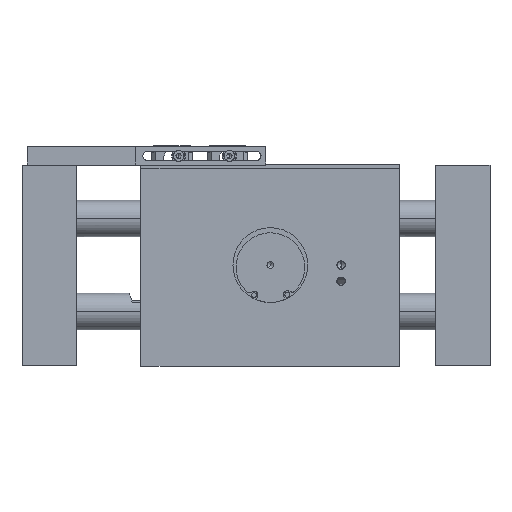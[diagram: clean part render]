
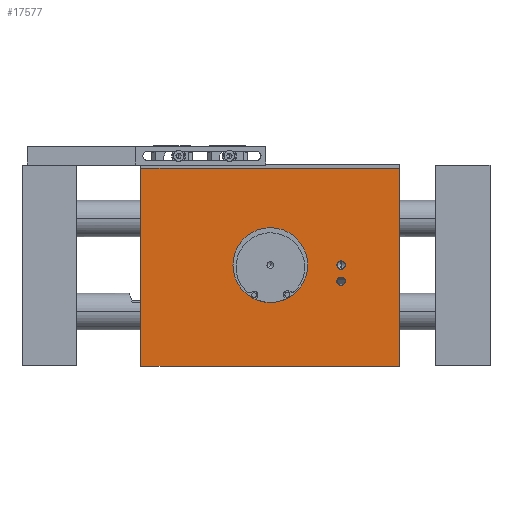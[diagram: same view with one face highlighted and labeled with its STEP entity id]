
A CAD part, front view. The second image highlights one B-rep face of the part: STEP entity #17577.
In plain terms, the highlighted planar face has unit normal (0, -1, 0).
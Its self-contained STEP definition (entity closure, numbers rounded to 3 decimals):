
#2375 = CARTESIAN_POINT ( 'NONE',  ( -64., -39., -50. ) ) ;
#2405 = CARTESIAN_POINT ( 'NONE',  ( 64., -39., 48. ) ) ;
#2932 = CARTESIAN_POINT ( 'NONE',  ( 64., -39., -50. ) ) ;
#6922 = VERTEX_POINT ( 'NONE', #21247 ) ;
#7338 = VERTEX_POINT ( 'NONE', #2375 ) ;
#7405 = VERTEX_POINT ( 'NONE', #2405 ) ;
#8127 = VERTEX_POINT ( 'NONE', #2932 ) ;
#11656 = AXIS2_PLACEMENT_3D ( 'NONE', #77890, #77893, #77895 ) ;
#11676 = AXIS2_PLACEMENT_3D ( 'NONE', #78000, #78043, #78045 ) ;
#11885 = AXIS2_PLACEMENT_3D ( 'NONE', #81394, #81395, #81396 ) ;
#17577 = ADVANCED_FACE ( 'NONE', ( #21749, #21748, #21754, #21756 ), #22168, .T. ) ;
#21247 = CARTESIAN_POINT ( 'NONE',  ( -64., -39., 48. ) ) ;
#21748 = FACE_BOUND ( 'NONE', #54851, .T. ) ;
#21749 = FACE_OUTER_BOUND ( 'NONE', #54784, .T. ) ;
#21754 = FACE_BOUND ( 'NONE', #54867, .T. ) ;
#21756 = FACE_BOUND ( 'NONE', #48877, .T. ) ;
#22168 = PLANE ( 'NONE',  #34755 ) ;
#22173 = CARTESIAN_POINT ( 'NONE',  ( -64., -39., -50. ) ) ;
#22175 = DIRECTION ( 'NONE',  ( 0., -1., 0. ) ) ;
#22176 = DIRECTION ( 'NONE',  ( 0., 0., -1. ) ) ;
#34755 = AXIS2_PLACEMENT_3D ( 'NONE', #22173, #22175, #22176 ) ;
#35288 = EDGE_CURVE ( 'NONE', #7338, #8127, #47389, .T. ) ;
#35334 = EDGE_CURVE ( 'NONE', #8127, #7405, #51296, .T. ) ;
#35390 = EDGE_CURVE ( 'NONE', #7338, #6922, #51351, .T. ) ;
#35427 = EDGE_CURVE ( 'NONE', #38621, #38416, #51379, .T. ) ;
#35428 = EDGE_CURVE ( 'NONE', #38521, #38617, #51381, .T. ) ;
#35429 = EDGE_CURVE ( 'NONE', #7405, #6922, #51380, .T. ) ;
#35431 = EDGE_CURVE ( 'NONE', #38435, #38549, #51385, .T. ) ;
#38416 = VERTEX_POINT ( 'NONE', #61391 ) ;
#38435 = VERTEX_POINT ( 'NONE', #61410 ) ;
#38521 = VERTEX_POINT ( 'NONE', #62268 ) ;
#38549 = VERTEX_POINT ( 'NONE', #62296 ) ;
#38617 = VERTEX_POINT ( 'NONE', #62364 ) ;
#38621 = VERTEX_POINT ( 'NONE', #62368 ) ;
#47383 = VECTOR ( 'NONE', #48712, 1000. ) ;
#47389 = LINE ( 'NONE', #48711, #47383 ) ;
#48711 = CARTESIAN_POINT ( 'NONE',  ( -64., -39., -50. ) ) ;
#48712 = DIRECTION ( 'NONE',  ( 1., 0., 0. ) ) ;
#48791 = CARTESIAN_POINT ( 'NONE',  ( 64., -39., -50. ) ) ;
#48792 = DIRECTION ( 'NONE',  ( 0., 0., 1. ) ) ;
#48877 = EDGE_LOOP ( 'NONE', ( #54275, #54277 ) ) ;
#48890 = CARTESIAN_POINT ( 'NONE',  ( -64., -39., -50. ) ) ;
#48892 = DIRECTION ( 'NONE',  ( 0., 0., 1. ) ) ;
#49007 = CARTESIAN_POINT ( 'NONE',  ( 64., -39., 48. ) ) ;
#49029 = CARTESIAN_POINT ( 'NONE',  ( 35., -39., -8. ) ) ;
#49032 = DIRECTION ( 'NONE',  ( 0., -1., 0. ) ) ;
#49034 = DIRECTION ( 'NONE',  ( 0., 0., -1. ) ) ;
#49036 = CARTESIAN_POINT ( 'NONE',  ( 35., -39., 0. ) ) ;
#49038 = DIRECTION ( 'NONE',  ( 0., -1., 0. ) ) ;
#49040 = DIRECTION ( 'NONE',  ( 0., 0., -1. ) ) ;
#49042 = CARTESIAN_POINT ( 'NONE',  ( 0., -39., 0. ) ) ;
#49045 = DIRECTION ( 'NONE',  ( -1., 0., 0. ) ) ;
#49049 = DIRECTION ( 'NONE',  ( 0., -1., 0. ) ) ;
#49051 = DIRECTION ( 'NONE',  ( 0., 0., -1. ) ) ;
#50451 = EDGE_CURVE ( 'NONE', #38617, #38521, #78447, .T. ) ;
#50473 = EDGE_CURVE ( 'NONE', #38416, #38621, #78479, .T. ) ;
#51004 = EDGE_CURVE ( 'NONE', #38549, #38435, #84042, .T. ) ;
#51296 = LINE ( 'NONE', #48791, #51297 ) ;
#51297 = VECTOR ( 'NONE', #48792, 1000. ) ;
#51351 = LINE ( 'NONE', #48890, #51352 ) ;
#51352 = VECTOR ( 'NONE', #48892, 1000. ) ;
#51353 = VECTOR ( 'NONE', #49045, 1000. ) ;
#51379 = CIRCLE ( 'NONE', #82693, 2.1 ) ;
#51380 = LINE ( 'NONE', #49007, #51353 ) ;
#51381 = CIRCLE ( 'NONE', #82695, 2.1 ) ;
#51385 = CIRCLE ( 'NONE', #82703, 18.5 ) ;
#54267 = ORIENTED_EDGE ( 'NONE', *, *, #35429, .T. ) ;
#54268 = ORIENTED_EDGE ( 'NONE', *, *, #35390, .F. ) ;
#54269 = ORIENTED_EDGE ( 'NONE', *, *, #35288, .T. ) ;
#54270 = ORIENTED_EDGE ( 'NONE', *, *, #35334, .T. ) ;
#54271 = ORIENTED_EDGE ( 'NONE', *, *, #35431, .F. ) ;
#54272 = ORIENTED_EDGE ( 'NONE', *, *, #51004, .F. ) ;
#54273 = ORIENTED_EDGE ( 'NONE', *, *, #35428, .F. ) ;
#54274 = ORIENTED_EDGE ( 'NONE', *, *, #50451, .F. ) ;
#54275 = ORIENTED_EDGE ( 'NONE', *, *, #35427, .F. ) ;
#54277 = ORIENTED_EDGE ( 'NONE', *, *, #50473, .F. ) ;
#54784 = EDGE_LOOP ( 'NONE', ( #54267, #54268, #54269, #54270 ) ) ;
#54851 = EDGE_LOOP ( 'NONE', ( #54271, #54272 ) ) ;
#54867 = EDGE_LOOP ( 'NONE', ( #54273, #54274 ) ) ;
#61391 = CARTESIAN_POINT ( 'NONE',  ( 35., -39., -5.9 ) ) ;
#61410 = CARTESIAN_POINT ( 'NONE',  ( 0., -39., -18.5 ) ) ;
#62268 = CARTESIAN_POINT ( 'NONE',  ( 35., -39., -2.1 ) ) ;
#62296 = CARTESIAN_POINT ( 'NONE',  ( 0., -39., 18.5 ) ) ;
#62364 = CARTESIAN_POINT ( 'NONE',  ( 35., -39., 2.1 ) ) ;
#62368 = CARTESIAN_POINT ( 'NONE',  ( 35., -39., -10.1 ) ) ;
#77890 = CARTESIAN_POINT ( 'NONE',  ( 35., -39., 0. ) ) ;
#77893 = DIRECTION ( 'NONE',  ( 0., -1., 0. ) ) ;
#77895 = DIRECTION ( 'NONE',  ( 0., 0., -1. ) ) ;
#78000 = CARTESIAN_POINT ( 'NONE',  ( 35., -39., -8. ) ) ;
#78043 = DIRECTION ( 'NONE',  ( 0., -1., 0. ) ) ;
#78045 = DIRECTION ( 'NONE',  ( 0., 0., -1. ) ) ;
#78447 = CIRCLE ( 'NONE', #11656, 2.1 ) ;
#78479 = CIRCLE ( 'NONE', #11676, 2.1 ) ;
#81394 = CARTESIAN_POINT ( 'NONE',  ( 0., -39., 0. ) ) ;
#81395 = DIRECTION ( 'NONE',  ( 0., -1., 0. ) ) ;
#81396 = DIRECTION ( 'NONE',  ( 0., 0., -1. ) ) ;
#82693 = AXIS2_PLACEMENT_3D ( 'NONE', #49029, #49032, #49034 ) ;
#82695 = AXIS2_PLACEMENT_3D ( 'NONE', #49036, #49038, #49040 ) ;
#82703 = AXIS2_PLACEMENT_3D ( 'NONE', #49042, #49049, #49051 ) ;
#84042 = CIRCLE ( 'NONE', #11885, 18.5 ) ;
